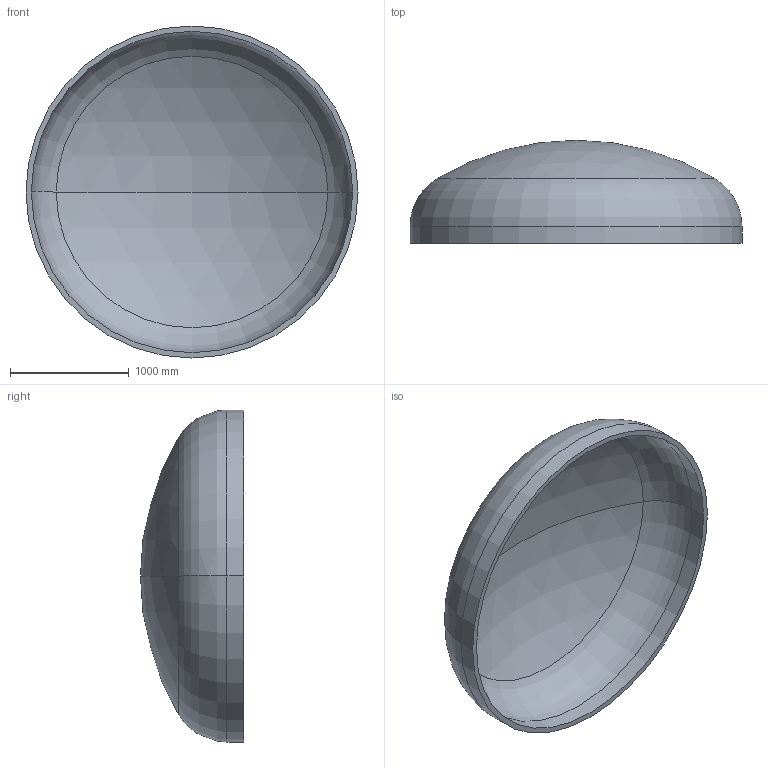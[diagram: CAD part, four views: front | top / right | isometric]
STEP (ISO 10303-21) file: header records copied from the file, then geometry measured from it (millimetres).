
FILE_DESCRIPTION (( 'STEP AP203' ), '1' );
FILE_NAME ('DIN 28013 Korbbogenform_-_Boden DIN 28013 - 2800 x 140 - I - s=45.step', '2016-07-01T17:00:50', ( '' ), ( '' ), 'SwSTEP 2.0', 'SolidWorks 2013', '' );
FILE_SCHEMA (( 'CONFIG_CONTROL_DESIGN' ));
Length unit declared in the file: millimetre
Products named in the file (1): DIN 28013 Korbbogenform_-_Boden DIN 28013 - 2800 x 140 - I - s=45
Bounding box: 2800 x 869.21 x 2800 mm (x, y, z)
Volume: 430029495 mm3; surface area: 19506135.6 mm2
Topology: 1 solids, 1 shells, 13 faces, 24 edges, 14 vertices
Faces by surface type: torus 4, cylinder 4, sphere 4, plane 1
Entity records: 407 total; most frequent: DIRECTION 72, CARTESIAN_POINT 52, ORIENTED_EDGE 48, AXIS2_PLACEMENT_3D 34, EDGE_CURVE 24, CIRCLE 20, VERTEX_POINT 14, EDGE_LOOP 14
